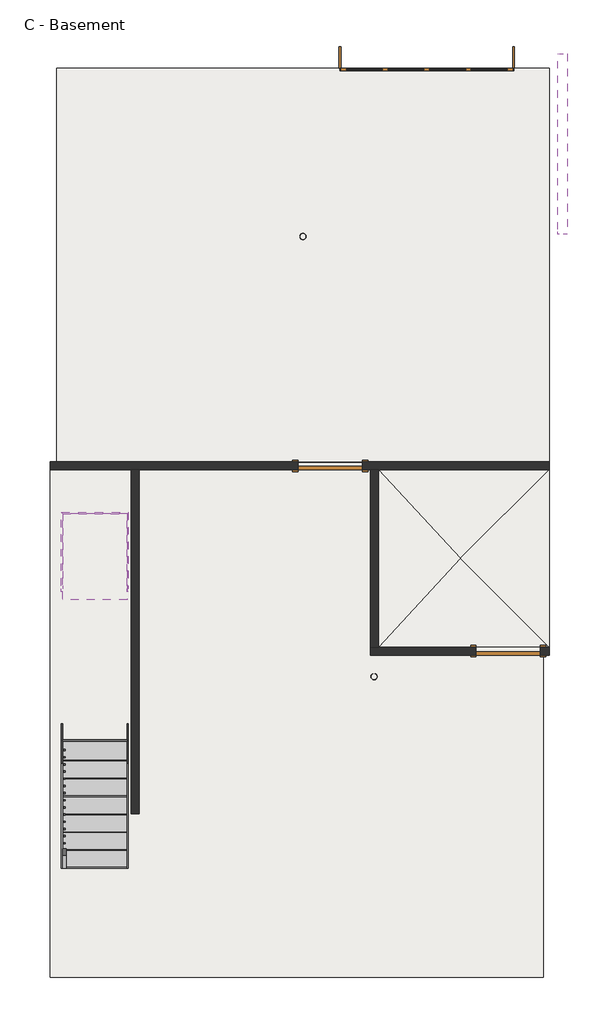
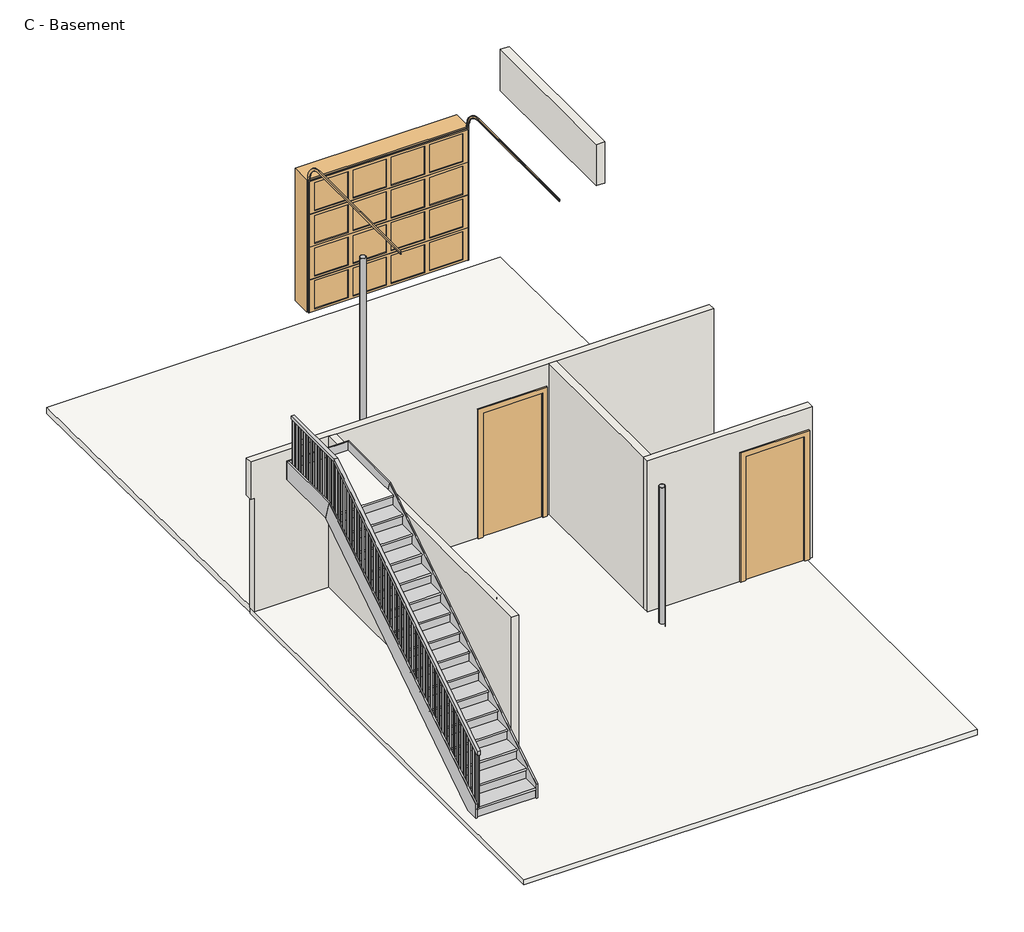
# One storey: 6 columns, 5 members, 5 walls, 4 doors, 4 slabs, 1 railing, 1 stair flight.
"""IFC4 building model written with IfcOpenShell, lengths in millimetres."""

from ifc_helpers import new_model, si_unit, frame, origin, place, context, project, spatial, polyline, outline, extrude, faceted_brep, transform, mapped, element, save
from components import pipe_column_pipe3std_a92b58e9, pipe_column_pipe3std_b7f71c59, pipe_column_pipe3std_d86ad78e, pipe_column_pipe3std_0c963f21, door_7a04b6f2, door_5e62189b, non_monolithic_landing_573beeaf, stair_flight_8d90cf4d

model = new_model("IFC4")

# Units and contexts
model_context = context("Model", 3, world=origin())
ifc_project = project(units=[si_unit("LENGTHUNIT", "METRE", prefix="MILLI")], contexts=[model_context])

# Site, building, storey
site = spatial("IfcSite", under=ifc_project)
building = spatial("IfcBuilding", under=site)
storey = spatial("IfcBuildingStorey", under=building, Name="C - Basement", Elevation=-1568.45)

# Columns
placement = place(None, origin())
pipe_column_pipe3std_shape = pipe_column_pipe3std_a92b58e9(model_context)
element("IfcColumn", 1, ObjectType="Pipe-Column : Pipe3STD", at=placement, inside=storey, context=model_context, shape_type="MappedRepresentation", body=[
    mapped(pipe_column_pipe3std_shape, transform((7980.8370514, -2782.5289462, 0.0), x_axis=(1.0, 0.0, 0.0), y_axis=(0.0, 1.0, 0.0), z_axis=(0.0, 0.0, 1.0))),
])
element("IfcColumn", 2, ObjectType="Pipe-Column : Pipe3STD", at=placement, inside=storey, context=model_context, shape_type="MappedRepresentation", body=[
    mapped(pipe_column_pipe3std_shape, transform((4589.9370514, -2782.5289462, 0.0), x_axis=(1.0, 0.0, 0.0), y_axis=(0.0, 1.0, 0.0), z_axis=(0.0, 0.0, 1.0))),
])
pipe_column_pipe3std_2_shape = pipe_column_pipe3std_b7f71c59(model_context)
element("IfcColumn", 3, ObjectType="Pipe-Column : Pipe3STD", at=placement, inside=storey, context=model_context, shape_type="MappedRepresentation", body=[
    mapped(pipe_column_pipe3std_2_shape, transform((4589.9370514, -4154.1289462, 0.0), x_axis=(1.0, 0.0, 0.0), y_axis=(0.0, 1.0, 0.0), z_axis=(0.0, 0.0, 1.0))),
])
pipe_column_pipe3std_3_shape = pipe_column_pipe3std_d86ad78e(model_context)
element("IfcColumn", 4, ObjectType="Pipe-Column : Pipe3STD", at=placement, inside=storey, context=model_context, shape_type="MappedRepresentation", body=[
    mapped(pipe_column_pipe3std_3_shape, transform((4589.9370514, 201.9710538, 0.0), x_axis=(1.0, 0.0, 0.0), y_axis=(0.0, 1.0, 0.0), z_axis=(0.0, 0.0, 1.0))),
])
element("IfcColumn", 5, ObjectType="Pipe-Column : Pipe3STD", at=placement, inside=storey, context=model_context, shape_type="MappedRepresentation", body=[
    mapped(pipe_column_pipe3std_3_shape, transform((7980.8370514, 201.9710538, 0.0), x_axis=(1.0, 0.0, 0.0), y_axis=(0.0, 1.0, 0.0), z_axis=(0.0, 0.0, 1.0))),
])
pipe_column_pipe3std_4_shape = pipe_column_pipe3std_0c963f21(model_context)
element("IfcColumn", 6, ObjectType="Pipe-Column : Pipe3STD", at=placement, inside=storey, context=model_context, shape_type="MappedRepresentation", body=[
    mapped(pipe_column_pipe3std_4_shape, transform((6971.1870514, 3462.6960538, 0.0), x_axis=(1.0, 0.0, 0.0), y_axis=(0.0, 1.0, 0.0), z_axis=(0.0, 0.0, 1.0))),
])

# Doors
door_shape = door_7a04b6f2(model_context)
element("IfcDoor", 7, ObjectType="Door-Garage-Embossed_Panel : 96\" x 84\"", at=placement, inside=storey, context=model_context, shape_type="MappedRepresentation", body=[
    mapped(door_shape, transform((8730.1370514, 6009.0460538, -1568.45), x_axis=(1.0, 0.0, 0.0), y_axis=(0.0, 1.0, 0.0), z_axis=(0.0, 0.0, 1.0))),
])
element("IfcDoor", 8, ObjectType="Door-Garage-Embossed_Panel : 96\" x 84\"", at=placement, inside=storey, context=model_context, shape_type="MappedRepresentation", body=[
    mapped(door_shape, transform((8730.1370514, 6009.0460538, -1568.45), x_axis=(1.0, 0.0, 0.0), y_axis=(0.0, 1.0, 0.0), z_axis=(0.0, 0.0, 1.0))),
])
door_2_shape = door_5e62189b(model_context)
element("IfcDoor", 9, ObjectType="Single-Flush : 36\" x 80\"", at=placement, inside=storey, context=model_context, shape_type="MappedRepresentation", body=[
    mapped(door_2_shape, transform((7358.5370514, 208.3210538, -1568.45), x_axis=(1.0, 0.0, 0.0), y_axis=(0.0, 1.0, 0.0), z_axis=(0.0, 0.0, 1.0))),
])
element("IfcDoor", 10, ObjectType="Single-Flush : 36\" x 80\"", at=placement, inside=storey, context=model_context, shape_type="MappedRepresentation", body=[
    mapped(door_2_shape, transform((9885.8370514, -2420.5789462, -1568.45), x_axis=(1.0, 0.0, 0.0), y_axis=(0.0, 1.0, 0.0), z_axis=(0.0, 0.0, 1.0))),
])

# Members
element("IfcMember", 11, ObjectType="Stringer - Paint - 3/4\" Width", at=placement, inside=storey, context=model_context, shape_type="SweptSolid", body=[
    extrude(outline(polyline([(-5500.3289462, -1568.45), (-5500.3289462, -1335.0832083), (-1580.7789382, 1206.5), (-1490.6062153, 901.7), (-5299.9941671, -1568.45), (-5500.3289462, -1568.45)])), frame((3539.0120514, 0.0, 0.0), z_axis=(1.0, 0.0, 0.0), x_axis=(0.0, 1.0, 0.0)), (0.0, 0.0, 1.0), 19.05),
])
element("IfcMember", 12, ObjectType="Stringer - Paint - 3/4\" Width", at=placement, inside=storey, context=model_context, shape_type="SweptSolid", body=[
    extrude(outline(polyline([(-5500.3289462, -1568.45), (-5500.3289462, -1335.0832083), (-1580.7789382, 1206.5), (-1490.6062153, 901.7), (-5299.9941671, -1568.45), (-5500.3289462, -1568.45)])), frame((4472.4620514, 0.0, 0.0), z_axis=(1.0, 0.0, 0.0), x_axis=(0.0, 1.0, 0.0)), (0.0, 0.0, 1.0), 19.05),
])
element("IfcMember", 13, ObjectType="Stringer - Paint - 3/4\" Width", at=placement, inside=storey, context=model_context, shape_type="SweptSolid", body=[
    extrude(outline(polyline([(4491.5120514, -452.0789462), (4472.4620514, -471.1289462), (3558.0620514, -471.1289462), (3539.0120514, -452.0789462), (4491.5120514, -452.0789462)])), frame((0.0, 0.0, 901.7), z_axis=(0.0, 0.0, 1.0), x_axis=(1.0, 0.0, 0.0)), (0.0, 0.0, 1.0), 304.8),
])
element("IfcMember", 14, ObjectType="Stringer - Paint - 3/4\" Width", at=placement, inside=storey, context=model_context, shape_type="Brep", body=[
    faceted_brep([(3558.0620514, -471.1289462, 1206.5), (3539.0120514, -452.0789462, 1206.5), (3539.0120514, -1580.7789382, 1206.5), (3558.0620514, -1580.7789382, 1206.5), (3558.0620514, -471.1289462, 901.7), (3558.0620514, -1490.6062153, 901.7), (3539.0120514, -452.0789462, 901.7), (3539.0120514, -1490.6062153, 901.7)], [[[0, 1, 2, 3]], [[4, 0, 3, 5]], [[6, 4, 5, 7]], [[1, 6, 7, 2]], [[1, 0, 4, 6]], [[2, 7, 5, 3]]]),
])
element("IfcMember", 15, ObjectType="Stringer - Paint - 3/4\" Width", at=placement, inside=storey, context=model_context, shape_type="Brep", body=[
    faceted_brep([(4472.4620514, -1580.7789382, 1206.5), (4491.5120514, -1580.7789382, 1206.5), (4491.5120514, -452.0789462, 1206.5), (4472.4620514, -471.1289462, 1206.5), (4472.4620514, -1490.6062153, 901.7), (4472.4620514, -471.1289462, 901.7), (4491.5120514, -1490.6062153, 901.7), (4491.5120514, -452.0789462, 901.7)], [[[0, 1, 2, 3]], [[4, 0, 3, 5]], [[6, 4, 5, 7]], [[1, 6, 7, 2]], [[1, 0, 4, 6]], [[2, 7, 5, 3]]]),
])

# Railing
element("IfcRailing", 16, ObjectType="Handrail - Rectangular", at=placement, inside=storey, context=model_context, shape_type="SolidModel", body=[
    faceted_brep([(3558.0620514, -531.4539462, 1981.2), (3608.8620514, -531.4539462, 1981.2), (3608.8620514, -531.4539462, 1930.4), (3558.0620514, -531.4539462, 1930.4), (3558.0620514, -1675.3001591, 1930.4), (3558.0620514, -1690.3289462, 1981.2), (3608.8620514, -1675.3001591, 1930.4), (3608.8620514, -1690.3289462, 1981.2), (3558.0620514, -5500.3289462, -489.346875), (3558.0620514, -5500.3289462, -549.8921042), (3608.8620514, -5500.3289462, -549.8921042), (3608.8620514, -5500.3289462, -489.346875)], [[[0, 1, 2, 3]], [[4, 5, 0, 3]], [[6, 4, 3, 2]], [[7, 6, 2, 1]], [[5, 7, 1, 0]], [[8, 9, 10, 11]], [[9, 8, 5, 4]], [[10, 9, 4, 6]], [[11, 10, 6, 7]], [[8, 11, 7, 5]]]),
    extrude(outline(polyline([(-5459.0539462, -523.1278464), (-5440.0039462, -510.775112), (-5440.0039462, -1403.746875), (-5459.0539462, -1403.746875), (-5459.0539462, -523.1278464)])), frame((3573.9370514, 0.0, 0.0), z_axis=(1.0, 0.0, 0.0), x_axis=(0.0, 1.0, 0.0)), (0.0, 0.0, 1.0), 19.05),
    extrude(outline(polyline([(-5357.4539462, -457.2465964), (-5338.4039462, -444.893862), (-5338.4039462, -1403.746875), (-5357.4539462, -1403.746875), (-5357.4539462, -457.2465964)])), frame((3573.9370514, 0.0, 0.0), z_axis=(1.0, 0.0, 0.0), x_axis=(0.0, 1.0, 0.0)), (0.0, 0.0, 1.0), 19.05),
    extrude(outline(polyline([(-5255.8539462, -391.3653464), (-5236.8039462, -379.012612), (-5236.8039462, -1239.04375), (-5255.8539462, -1239.04375), (-5255.8539462, -391.3653464)])), frame((3573.9370514, 0.0, 0.0), z_axis=(1.0, 0.0, 0.0), x_axis=(0.0, 1.0, 0.0)), (0.0, 0.0, 1.0), 19.05),
    extrude(outline(polyline([(-5154.2539462, -325.4840964), (-5135.2039462, -313.131362), (-5135.2039462, -1239.04375), (-5154.2539462, -1239.04375), (-5154.2539462, -325.4840964)])), frame((3573.9370514, 0.0, 0.0), z_axis=(1.0, 0.0, 0.0), x_axis=(0.0, 1.0, 0.0)), (0.0, 0.0, 1.0), 19.05),
    extrude(outline(polyline([(-5052.6539462, -259.6028464), (-5033.6039462, -247.250112), (-5033.6039462, -1239.04375), (-5052.6539462, -1239.04375), (-5052.6539462, -259.6028464)])), frame((3573.9370514, 0.0, 0.0), z_axis=(1.0, 0.0, 0.0), x_axis=(0.0, 1.0, 0.0)), (0.0, 0.0, 1.0), 19.05),
    extrude(outline(polyline([(-4951.0539462, -193.7215964), (-4932.0039462, -181.368862), (-4932.0039462, -1074.340625), (-4951.0539462, -1074.340625), (-4951.0539462, -193.7215964)])), frame((3573.9370514, 0.0, 0.0), z_axis=(1.0, 0.0, 0.0), x_axis=(0.0, 1.0, 0.0)), (0.0, 0.0, 1.0), 19.05),
    extrude(outline(polyline([(-4849.4539462, -127.8403464), (-4830.4039462, -115.487612), (-4830.4039462, -1074.340625), (-4849.4539462, -1074.340625), (-4849.4539462, -127.8403464)])), frame((3573.9370514, 0.0, 0.0), z_axis=(1.0, 0.0, 0.0), x_axis=(0.0, 1.0, 0.0)), (0.0, 0.0, 1.0), 19.05),
    extrude(outline(polyline([(-4747.8539462, -61.9590964), (-4728.8039462, -49.606362), (-4728.8039462, -909.6375), (-4747.8539462, -909.6375), (-4747.8539462, -61.9590964)])), frame((3573.9370514, 0.0, 0.0), z_axis=(1.0, 0.0, 0.0), x_axis=(0.0, 1.0, 0.0)), (0.0, 0.0, 1.0), 19.05),
    extrude(outline(polyline([(-4646.2539462, 3.9221536), (-4627.2039462, 16.274888), (-4627.2039462, -909.6375), (-4646.2539462, -909.6375), (-4646.2539462, 3.9221536)])), frame((3573.9370514, 0.0, 0.0), z_axis=(1.0, 0.0, 0.0), x_axis=(0.0, 1.0, 0.0)), (0.0, 0.0, 1.0), 19.05),
    extrude(outline(polyline([(-4544.6539462, 69.8034036), (-4525.6039462, 82.156138), (-4525.6039462, -909.6375), (-4544.6539462, -909.6375), (-4544.6539462, 69.8034036)])), frame((3573.9370514, 0.0, 0.0), z_axis=(1.0, 0.0, 0.0), x_axis=(0.0, 1.0, 0.0)), (0.0, 0.0, 1.0), 19.05),
    extrude(outline(polyline([(-4443.0539462, 135.6846536), (-4424.0039462, 148.037388), (-4424.0039462, -744.934375), (-4443.0539462, -744.934375), (-4443.0539462, 135.6846536)])), frame((3573.9370514, 0.0, 0.0), z_axis=(1.0, 0.0, 0.0), x_axis=(0.0, 1.0, 0.0)), (0.0, 0.0, 1.0), 19.05),
    extrude(outline(polyline([(-4341.4539462, 201.5659036), (-4322.4039462, 213.918638), (-4322.4039462, -744.934375), (-4341.4539462, -744.934375), (-4341.4539462, 201.5659036)])), frame((3573.9370514, 0.0, 0.0), z_axis=(1.0, 0.0, 0.0), x_axis=(0.0, 1.0, 0.0)), (0.0, 0.0, 1.0), 19.05),
    extrude(outline(polyline([(-4239.8539462, 267.4471536), (-4220.8039462, 279.799888), (-4220.8039462, -580.23125), (-4239.8539462, -580.23125), (-4239.8539462, 267.4471536)])), frame((3573.9370514, 0.0, 0.0), z_axis=(1.0, 0.0, 0.0), x_axis=(0.0, 1.0, 0.0)), (0.0, 0.0, 1.0), 19.05),
    extrude(outline(polyline([(-4138.2539462, 333.3284036), (-4119.2039462, 345.681138), (-4119.2039462, -580.23125), (-4138.2539462, -580.23125), (-4138.2539462, 333.3284036)])), frame((3573.9370514, 0.0, 0.0), z_axis=(1.0, 0.0, 0.0), x_axis=(0.0, 1.0, 0.0)), (0.0, 0.0, 1.0), 19.05),
    extrude(outline(polyline([(-4036.6539462, 399.2096536), (-4017.6039462, 411.562388), (-4017.6039462, -580.23125), (-4036.6539462, -580.23125), (-4036.6539462, 399.2096536)])), frame((3573.9370514, 0.0, 0.0), z_axis=(1.0, 0.0, 0.0), x_axis=(0.0, 1.0, 0.0)), (0.0, 0.0, 1.0), 19.05),
    extrude(outline(polyline([(-3935.0539462, 465.0909036), (-3916.0039462, 477.443638), (-3916.0039462, -415.528125), (-3935.0539462, -415.528125), (-3935.0539462, 465.0909036)])), frame((3573.9370514, 0.0, 0.0), z_axis=(1.0, 0.0, 0.0), x_axis=(0.0, 1.0, 0.0)), (0.0, 0.0, 1.0), 19.05),
    extrude(outline(polyline([(-3833.4539462, 530.9721536), (-3814.4039462, 543.324888), (-3814.4039462, -415.528125), (-3833.4539462, -415.528125), (-3833.4539462, 530.9721536)])), frame((3573.9370514, 0.0, 0.0), z_axis=(1.0, 0.0, 0.0), x_axis=(0.0, 1.0, 0.0)), (0.0, 0.0, 1.0), 19.05),
    extrude(outline(polyline([(-3731.8539462, 596.8534036), (-3712.8039462, 609.206138), (-3712.8039462, -250.825), (-3731.8539462, -250.825), (-3731.8539462, 596.8534036)])), frame((3573.9370514, 0.0, 0.0), z_axis=(1.0, 0.0, 0.0), x_axis=(0.0, 1.0, 0.0)), (0.0, 0.0, 1.0), 19.05),
    extrude(outline(polyline([(-3630.2539462, 662.7346536), (-3611.2039462, 675.087388), (-3611.2039462, -250.825), (-3630.2539462, -250.825), (-3630.2539462, 662.7346536)])), frame((3573.9370514, 0.0, 0.0), z_axis=(1.0, 0.0, 0.0), x_axis=(0.0, 1.0, 0.0)), (0.0, 0.0, 1.0), 19.05),
    extrude(outline(polyline([(-3528.6539462, 728.6159036), (-3509.6039462, 740.968638), (-3509.6039462, -250.825), (-3528.6539462, -250.825), (-3528.6539462, 728.6159036)])), frame((3573.9370514, 0.0, 0.0), z_axis=(1.0, 0.0, 0.0), x_axis=(0.0, 1.0, 0.0)), (0.0, 0.0, 1.0), 19.05),
    extrude(outline(polyline([(-3427.0539462, 794.4971536), (-3408.0039462, 806.849888), (-3408.0039462, -86.121875), (-3427.0539462, -86.121875), (-3427.0539462, 794.4971536)])), frame((3573.9370514, 0.0, 0.0), z_axis=(1.0, 0.0, 0.0), x_axis=(0.0, 1.0, 0.0)), (0.0, 0.0, 1.0), 19.05),
    extrude(outline(polyline([(-3325.4539462, 860.3784036), (-3306.4039462, 872.731138), (-3306.4039462, -86.121875), (-3325.4539462, -86.121875), (-3325.4539462, 860.3784036)])), frame((3573.9370514, 0.0, 0.0), z_axis=(1.0, 0.0, 0.0), x_axis=(0.0, 1.0, 0.0)), (0.0, 0.0, 1.0), 19.05),
    extrude(outline(polyline([(-3223.8539462, 926.2596536), (-3204.8039462, 938.612388), (-3204.8039462, 78.58125), (-3223.8539462, 78.58125), (-3223.8539462, 926.2596536)])), frame((3573.9370514, 0.0, 0.0), z_axis=(1.0, 0.0, 0.0), x_axis=(0.0, 1.0, 0.0)), (0.0, 0.0, 1.0), 19.05),
    extrude(outline(polyline([(-3122.2539462, 992.1409036), (-3103.2039462, 1004.493638), (-3103.2039462, 78.58125), (-3122.2539462, 78.58125), (-3122.2539462, 992.1409036)])), frame((3573.9370514, 0.0, 0.0), z_axis=(1.0, 0.0, 0.0), x_axis=(0.0, 1.0, 0.0)), (0.0, 0.0, 1.0), 19.05),
    extrude(outline(polyline([(-3020.6539462, 1058.0221536), (-3001.6039462, 1070.374888), (-3001.6039462, 78.58125), (-3020.6539462, 78.58125), (-3020.6539462, 1058.0221536)])), frame((3573.9370514, 0.0, 0.0), z_axis=(1.0, 0.0, 0.0), x_axis=(0.0, 1.0, 0.0)), (0.0, 0.0, 1.0), 19.05),
    extrude(outline(polyline([(-2919.0539462, 1123.9034036), (-2900.0039462, 1136.256138), (-2900.0039462, 243.284375), (-2919.0539462, 243.284375), (-2919.0539462, 1123.9034036)])), frame((3573.9370514, 0.0, 0.0), z_axis=(1.0, 0.0, 0.0), x_axis=(0.0, 1.0, 0.0)), (0.0, 0.0, 1.0), 19.05),
    extrude(outline(polyline([(-2817.4539462, 1189.7846536), (-2798.4039462, 1202.137388), (-2798.4039462, 243.284375), (-2817.4539462, 243.284375), (-2817.4539462, 1189.7846536)])), frame((3573.9370514, 0.0, 0.0), z_axis=(1.0, 0.0, 0.0), x_axis=(0.0, 1.0, 0.0)), (0.0, 0.0, 1.0), 19.05),
    extrude(outline(polyline([(-2715.8539462, 1255.6659036), (-2696.8039462, 1268.018638), (-2696.8039462, 407.9875), (-2715.8539462, 407.9875), (-2715.8539462, 1255.6659036)])), frame((3573.9370514, 0.0, 0.0), z_axis=(1.0, 0.0, 0.0), x_axis=(0.0, 1.0, 0.0)), (0.0, 0.0, 1.0), 19.05),
    extrude(outline(polyline([(-2614.2539462, 1321.5471536), (-2595.2039462, 1333.899888), (-2595.2039462, 407.9875), (-2614.2539462, 407.9875), (-2614.2539462, 1321.5471536)])), frame((3573.9370514, 0.0, 0.0), z_axis=(1.0, 0.0, 0.0), x_axis=(0.0, 1.0, 0.0)), (0.0, 0.0, 1.0), 19.05),
    extrude(outline(polyline([(-2512.6539462, 1387.4284036), (-2493.6039462, 1399.781138), (-2493.6039462, 407.9875), (-2512.6539462, 407.9875), (-2512.6539462, 1387.4284036)])), frame((3573.9370514, 0.0, 0.0), z_axis=(1.0, 0.0, 0.0), x_axis=(0.0, 1.0, 0.0)), (0.0, 0.0, 1.0), 19.05),
    extrude(outline(polyline([(-2411.0539462, 1453.3096536), (-2392.0039462, 1465.662388), (-2392.0039462, 572.690625), (-2411.0539462, 572.690625), (-2411.0539462, 1453.3096536)])), frame((3573.9370514, 0.0, 0.0), z_axis=(1.0, 0.0, 0.0), x_axis=(0.0, 1.0, 0.0)), (0.0, 0.0, 1.0), 19.05),
    extrude(outline(polyline([(-2309.4539462, 1519.1909036), (-2290.4039462, 1531.543638), (-2290.4039462, 572.690625), (-2309.4539462, 572.690625), (-2309.4539462, 1519.1909036)])), frame((3573.9370514, 0.0, 0.0), z_axis=(1.0, 0.0, 0.0), x_axis=(0.0, 1.0, 0.0)), (0.0, 0.0, 1.0), 19.05),
    extrude(outline(polyline([(-2207.8539462, 1585.0721536), (-2188.8039462, 1597.424888), (-2188.8039462, 737.39375), (-2207.8539462, 737.39375), (-2207.8539462, 1585.0721536)])), frame((3573.9370514, 0.0, 0.0), z_axis=(1.0, 0.0, 0.0), x_axis=(0.0, 1.0, 0.0)), (0.0, 0.0, 1.0), 19.05),
    extrude(outline(polyline([(-2106.2539462, 1650.9534036), (-2087.2039462, 1663.306138), (-2087.2039462, 737.39375), (-2106.2539462, 737.39375), (-2106.2539462, 1650.9534036)])), frame((3573.9370514, 0.0, 0.0), z_axis=(1.0, 0.0, 0.0), x_axis=(0.0, 1.0, 0.0)), (0.0, 0.0, 1.0), 19.05),
    extrude(outline(polyline([(-2004.6539462, 1716.8346536), (-1985.6039462, 1729.187388), (-1985.6039462, 737.39375), (-2004.6539462, 737.39375), (-2004.6539462, 1716.8346536)])), frame((3573.9370514, 0.0, 0.0), z_axis=(1.0, 0.0, 0.0), x_axis=(0.0, 1.0, 0.0)), (0.0, 0.0, 1.0), 19.05),
    extrude(outline(polyline([(-1903.0539462, 1782.7159036), (-1884.0039462, 1795.068638), (-1884.0039462, 902.096875), (-1903.0539462, 902.096875), (-1903.0539462, 1782.7159036)])), frame((3573.9370514, 0.0, 0.0), z_axis=(1.0, 0.0, 0.0), x_axis=(0.0, 1.0, 0.0)), (0.0, 0.0, 1.0), 19.05),
    extrude(outline(polyline([(-1801.4539462, 1848.5971536), (-1782.4039462, 1860.949888), (-1782.4039462, 902.096875), (-1801.4539462, 902.096875), (-1801.4539462, 1848.5971536)])), frame((3573.9370514, 0.0, 0.0), z_axis=(1.0, 0.0, 0.0), x_axis=(0.0, 1.0, 0.0)), (0.0, 0.0, 1.0), 19.05),
    extrude(outline(polyline([(3573.9370514, -1639.5289462), (3592.9870514, -1639.5289462), (3592.9870514, -1658.5789462), (3573.9370514, -1658.5789462), (3573.9370514, -1639.5289462)])), frame((0.0, 0.0, 1066.8), z_axis=(0.0, 0.0, 1.0), x_axis=(1.0, 0.0, 0.0)), (0.0, 0.0, 1.0), 863.6),
    extrude(outline(polyline([(3573.9370514, -1537.9289462), (3592.9870514, -1537.9289462), (3592.9870514, -1556.9789462), (3573.9370514, -1556.9789462), (3573.9370514, -1537.9289462)])), frame((0.0, 0.0, 1066.8), z_axis=(0.0, 0.0, 1.0), x_axis=(1.0, 0.0, 0.0)), (0.0, 0.0, 1.0), 863.6),
    extrude(outline(polyline([(3573.9370514, -1436.3289462), (3592.9870514, -1436.3289462), (3592.9870514, -1455.3789462), (3573.9370514, -1455.3789462), (3573.9370514, -1436.3289462)])), frame((0.0, 0.0, 1066.8), z_axis=(0.0, 0.0, 1.0), x_axis=(1.0, 0.0, 0.0)), (0.0, 0.0, 1.0), 863.6),
    extrude(outline(polyline([(3573.9370514, -1334.7289462), (3592.9870514, -1334.7289462), (3592.9870514, -1353.7789462), (3573.9370514, -1353.7789462), (3573.9370514, -1334.7289462)])), frame((0.0, 0.0, 1066.8), z_axis=(0.0, 0.0, 1.0), x_axis=(1.0, 0.0, 0.0)), (0.0, 0.0, 1.0), 863.6),
    extrude(outline(polyline([(3573.9370514, -1233.1289462), (3592.9870514, -1233.1289462), (3592.9870514, -1252.1789462), (3573.9370514, -1252.1789462), (3573.9370514, -1233.1289462)])), frame((0.0, 0.0, 1066.8), z_axis=(0.0, 0.0, 1.0), x_axis=(1.0, 0.0, 0.0)), (0.0, 0.0, 1.0), 863.6),
    extrude(outline(polyline([(3573.9370514, -1131.5289462), (3592.9870514, -1131.5289462), (3592.9870514, -1150.5789462), (3573.9370514, -1150.5789462), (3573.9370514, -1131.5289462)])), frame((0.0, 0.0, 1066.8), z_axis=(0.0, 0.0, 1.0), x_axis=(1.0, 0.0, 0.0)), (0.0, 0.0, 1.0), 863.6),
    extrude(outline(polyline([(3573.9370514, -1029.9289462), (3592.9870514, -1029.9289462), (3592.9870514, -1048.9789462), (3573.9370514, -1048.9789462), (3573.9370514, -1029.9289462)])), frame((0.0, 0.0, 1066.8), z_axis=(0.0, 0.0, 1.0), x_axis=(1.0, 0.0, 0.0)), (0.0, 0.0, 1.0), 863.6),
    extrude(outline(polyline([(3573.9370514, -928.3289462), (3592.9870514, -928.3289462), (3592.9870514, -947.3789462), (3573.9370514, -947.3789462), (3573.9370514, -928.3289462)])), frame((0.0, 0.0, 1066.8), z_axis=(0.0, 0.0, 1.0), x_axis=(1.0, 0.0, 0.0)), (0.0, 0.0, 1.0), 863.6),
    extrude(outline(polyline([(3573.9370514, -826.7289462), (3592.9870514, -826.7289462), (3592.9870514, -845.7789462), (3573.9370514, -845.7789462), (3573.9370514, -826.7289462)])), frame((0.0, 0.0, 1066.8), z_axis=(0.0, 0.0, 1.0), x_axis=(1.0, 0.0, 0.0)), (0.0, 0.0, 1.0), 863.6),
    extrude(outline(polyline([(3573.9370514, -725.1289462), (3592.9870514, -725.1289462), (3592.9870514, -744.1789462), (3573.9370514, -744.1789462), (3573.9370514, -725.1289462)])), frame((0.0, 0.0, 1066.8), z_axis=(0.0, 0.0, 1.0), x_axis=(1.0, 0.0, 0.0)), (0.0, 0.0, 1.0), 863.6),
    extrude(outline(polyline([(3573.9370514, -623.5289462), (3592.9870514, -623.5289462), (3592.9870514, -642.5789462), (3573.9370514, -642.5789462), (3573.9370514, -623.5289462)])), frame((0.0, 0.0, 1066.8), z_axis=(0.0, 0.0, 1.0), x_axis=(1.0, 0.0, 0.0)), (0.0, 0.0, 1.0), 863.6),
    extrude(outline(polyline([(3573.9370514, -1680.8039462), (3592.9870514, -1680.8039462), (3592.9870514, -1699.8539462), (3573.9370514, -1699.8539462), (3573.9370514, -1680.8039462)])), frame((0.0, 0.0, 1066.8), z_axis=(0.0, 0.0, 1.0), x_axis=(1.0, 0.0, 0.0)), (0.0, 0.0, 1.0), 863.6),
    extrude(outline(polyline([(-5500.3289462, -549.8921042), (-5481.2789462, -537.5393698), (-5481.2789462, -1403.746875), (-5500.3289462, -1403.746875), (-5500.3289462, -549.8921042)])), frame((3573.9370514, 0.0, 0.0), z_axis=(1.0, 0.0, 0.0), x_axis=(0.0, 1.0, 0.0)), (0.0, 0.0, 1.0), 19.05),
    extrude(outline(polyline([(3573.9370514, -531.4539462), (3592.9870514, -531.4539462), (3592.9870514, -550.5039462), (3573.9370514, -550.5039462), (3573.9370514, -531.4539462)])), frame((0.0, 0.0, 1066.8), z_axis=(0.0, 0.0, 1.0), x_axis=(1.0, 0.0, 0.0)), (0.0, 0.0, 1.0), 863.6),
])

# Slabs
element("IfcSlab", 17, ObjectType="Concrete Slab - 3 1/2\"", at=placement, inside=storey, context=model_context, shape_type="Brep", body=[
    faceted_brep([(10470.0370514, 151.1710538, -1657.35), (10470.0370514, -2363.4289462, -1657.35), (8044.3370514, -2363.4289462, -1657.35), (8044.3370514, 151.1710538, -1657.35), (10470.0370514, 151.1710538, -1568.45), (10470.0370514, -2363.4289462, -1568.45), (8044.3370514, -2363.4289462, -1568.45), (8044.3370514, 151.1710538, -1568.45), (9206.23655, -1100.6899782, -1581.15)], [[[0, 1, 2, 3]], [[1, 0, 4, 5]], [[2, 1, 5, 6]], [[3, 2, 6, 7]], [[0, 3, 7, 4]], [[7, 6, 8]], [[5, 4, 8]], [[6, 5, 8]], [[7, 8, 4]]]),
])
element("IfcSlab", 18, ObjectType="Concrete Slab - 3 1/2\"", at=placement, inside=storey, context=model_context, shape_type="SweptSolid", body=[
    extrude(outline(polyline([(10381.1370514, 252.7710538), (10381.1370514, 163.8710538), (7955.4370514, 163.8710538), (7955.4370514, -2363.4289462), (10381.1370514, -2363.4289462), (10381.1370514, -7049.7289462), (3383.4370514, -7049.7289462), (3383.4370514, 252.7710538), (10381.1370514, 252.7710538)])), frame((0.0, 0.0, -1657.35), z_axis=(0.0, 0.0, 1.0), x_axis=(1.0, 0.0, 0.0)), (0.0, 0.0, 1.0), 88.9),
])
element("IfcSlab", 19, ObjectType="Concrete Slab - 4\"", at=placement, inside=storey, context=model_context, shape_type="SweptSolid", body=[
    extrude(outline(polyline([(5853.4710538, -1822.455512), (265.4710538, -1764.2471787), (265.4710538, -1662.6416667), (5853.4710538, -1720.85), (5853.4710538, -1822.455512)])), frame((3472.3370514, 0.0, 0.0), z_axis=(1.0, 0.0, 0.0), x_axis=(0.0, 1.0, 0.0)), (0.0, 0.0, 1.0), 6997.7),
])
non_monolithic_landing_shape = non_monolithic_landing_573beeaf(model_context)
element("IfcSlab", 20, ObjectType="Non-Monolithic Landing", at=placement, inside=storey, context=model_context, shape_type="MappedRepresentation", body=[
    mapped(non_monolithic_landing_shape, transform((0.0, 0.0, 0.0), x_axis=(1.0, 0.0, 0.0), y_axis=(0.0, 1.0, 0.0), z_axis=(0.0, 0.0, 1.0))),
])

# Stair flight
stair_flight_shape = stair_flight_8d90cf4d(model_context)
element("IfcStairFlight", 21, ObjectType="Wood Steps with 1\" Front Nosing", at=placement, inside=storey, context=model_context, shape_type="MappedRepresentation", body=[
    mapped(stair_flight_shape, transform((0.0, 0.0, 0.0), x_axis=(1.0, 0.0, 0.0), y_axis=(0.0, 1.0, 0.0), z_axis=(0.0, 0.0, 1.0))),
])

# Walls
element("IfcWall", 22, ObjectType="Exterior - Wood Siding on Wood Stud", at=placement, inside=storey, context=model_context, shape_type="Brep", body=[
    faceted_brep([(10590.6870514, 6056.6710538, 1504.95), (10590.6870514, 6056.6710538, 831.2339078), (10590.6870514, 3497.6210538, 831.2339078), (10590.6870514, 3497.6210538, 1219.2), (10590.6870514, 3497.6210538, 1504.95), (10590.6870514, 3564.2960538, 1504.95), (10724.0370514, 6056.6710538, 831.2339078), (10724.0370514, 6056.6710538, 1504.95), (10724.0370514, 3497.6210538, 1504.95), (10724.0370514, 3497.6210538, 831.2339078), (10609.7370514, 6056.6710538, 831.2339078), (10609.7370514, 3497.6210538, 831.2339078)], [[[0, 1, 2, 3, 4, 5]], [[6, 7, 8, 9]], [[0, 5, 4, 8, 7]], [[10, 6, 9, 11]], [[2, 1, 10, 11]], [[0, 7, 6, 10, 1]], [[2, 11, 9, 8, 4, 3]]]),
])
element("IfcWall", 23, ObjectType="Interior - 4 1/2\" Partition", at=placement, inside=storey, context=model_context, shape_type="Brep", body=[
    faceted_brep([(10470.0370514, -2363.4289462, -1568.45), (10343.0370514, -2363.4289462, -1568.45), (10343.0370514, -2363.4289462, 463.55), (9428.6370514, -2363.4289462, 463.55), (9428.6370514, -2363.4289462, -1568.45), (8044.3370514, -2363.4289462, -1568.45), (7930.0370514, -2363.4289462, -1568.45), (7930.0370514, -2363.4289462, 895.35), (8044.3370514, -2363.4289462, 895.35), (10470.0370514, -2363.4289462, 895.35), (10343.0370514, -2477.7289462, 463.55), (10343.0370514, -2477.7289462, -1568.45), (10470.0370514, -2477.7289462, -1568.45), (10470.0370514, -2477.7289462, 895.35), (7930.0370514, -2477.7289462, 895.35), (7930.0370514, -2477.7289462, -1568.45), (9428.6370514, -2477.7289462, -1568.45), (9428.6370514, -2477.7289462, 463.55)], [[[0, 1, 2, 3, 4, 5, 6, 7, 8, 9]], [[10, 11, 12, 13, 14, 15, 16, 17]], [[16, 15, 6, 5, 4]], [[12, 11, 1, 0]], [[9, 8, 7, 14, 13]], [[7, 6, 15, 14]], [[2, 1, 11, 10]], [[3, 2, 10, 17]], [[4, 3, 17, 16]], [[0, 9, 13, 12]]]),
])
element("IfcWall", 24, ObjectType="Interior - 4 1/2\" Partition", at=placement, inside=storey, context=model_context, shape_type="Brep", body=[
    faceted_brep([(10470.0370514, 265.4710538, -1568.45), (7815.7370514, 265.4710538, -1568.45), (7815.7370514, 265.4710538, 463.55), (6901.3370514, 265.4710538, 463.55), (6901.3370514, 265.4710538, -1568.45), (3383.4370514, 265.4710538, -1568.45), (3383.4370514, 265.4710538, 285.75), (3329.4620514, 265.4710538, 285.75), (3329.4620514, 265.4710538, 895.35), (10470.0370514, 265.4710538, 895.35), (7815.7370514, 151.1710538, 463.55), (7815.7370514, 151.1710538, -1568.45), (7930.0370514, 151.1710538, -1568.45), (8044.3370514, 151.1710538, -1568.45), (10470.0370514, 151.1710538, -1568.45), (10470.0370514, 151.1710538, 895.35), (8044.3370514, 151.1710538, 895.35), (7930.0370514, 151.1710538, 895.35), (4647.0870514, 151.1710538, 895.35), (4532.7870514, 151.1710538, 895.35), (3329.4620514, 151.1710538, 895.35), (3329.4620514, 151.1710538, 285.75), (3383.4370514, 151.1710538, 285.75), (3383.4370514, 151.1710538, -1568.45), (4532.7870514, 151.1710538, -1568.45), (4647.0870514, 151.1710538, -1568.45), (6901.3370514, 151.1710538, -1568.45), (6901.3370514, 151.1710538, 463.55)], [[[0, 1, 2, 3, 4, 5, 6, 7, 8, 9]], [[10, 11, 12, 13, 14, 15, 16, 17, 18, 19, 20, 21, 22, 23, 24, 25, 26, 27]], [[14, 13, 12, 11, 1, 0]], [[26, 25, 24, 23, 5, 4]], [[9, 8, 20, 19, 18, 17, 16, 15]], [[2, 1, 11, 10]], [[3, 2, 10, 27]], [[4, 3, 27, 26]], [[21, 7, 6, 22]], [[6, 5, 23, 22]], [[8, 7, 21, 20]], [[0, 9, 15, 14]]]),
])
element("IfcWall", 25, ObjectType="Interior - 4 1/2\" Partition", at=placement, inside=storey, context=model_context, shape_type="SweptSolid", body=[
    extrude(outline(polyline([(8044.3370514, 151.1710538), (8044.3370514, -2363.4289462), (7930.0370514, -2363.4289462), (7930.0370514, 151.1710538), (8044.3370514, 151.1710538)])), frame((0.0, 0.0, -1568.45), z_axis=(0.0, 0.0, 1.0), x_axis=(1.0, 0.0, 0.0)), (0.0, 0.0, 1.0), 2463.8),
])
element("IfcWall", 26, ObjectType="Interior - 4 1/2\" Partition", at=placement, inside=storey, context=model_context, shape_type="SweptSolid", body=[
    extrude(outline(polyline([(4532.7870514, -4725.6289462), (4532.7870514, 151.1710538), (4647.0870514, 151.1710538), (4647.0870514, -4725.6289462), (4532.7870514, -4725.6289462)])), frame((0.0, 0.0, -1568.45), z_axis=(0.0, 0.0, 1.0), x_axis=(1.0, 0.0, 0.0)), (0.0, 0.0, 1.0), 2463.8),
])

save(model, "model.ifc")
